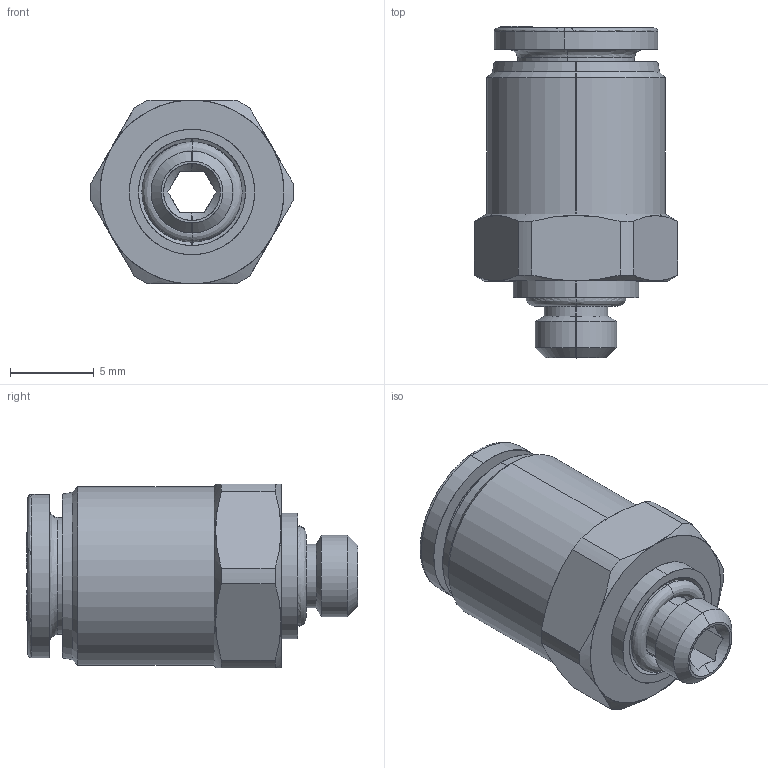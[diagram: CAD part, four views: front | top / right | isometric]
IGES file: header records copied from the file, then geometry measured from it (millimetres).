
Start section: SolidWorks IGES file using analytic representation for surfaces
Global section: file name: C:\Users\cad06\Desktop\Nuova cartella\56020\5602000009.IGS; native system: SolidWorks 2016; preprocessor: SolidWorks 2016; author: cad06; date: 160524.085352; units: millimetre
Bounding box: 12.2 x 19.85 x 11 mm (x, y, z)
Surface area: 1137.5 mm2 (no closed solid volume)
Topology: 0 solids, 0 shells, 235 faces, 2240 edges, 2240 vertices
Faces by surface type: bspline 191, revolution 44
